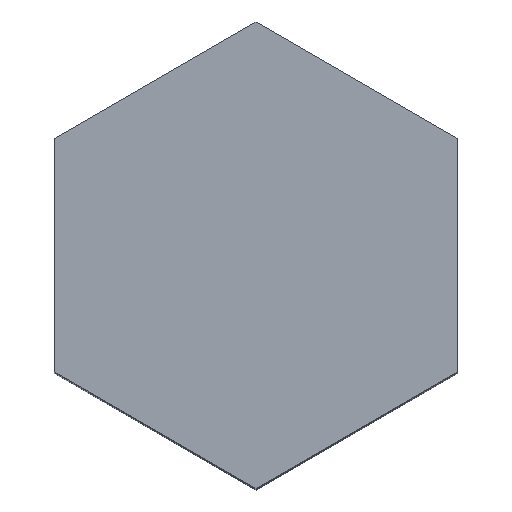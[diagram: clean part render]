
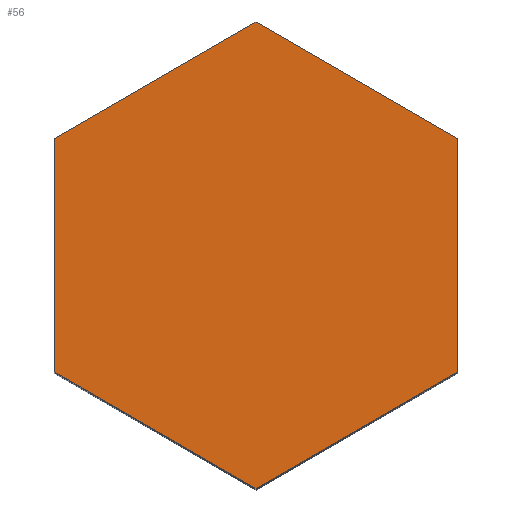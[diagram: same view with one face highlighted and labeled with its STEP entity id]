
A CAD part, top view. The second image highlights one B-rep face of the part: STEP entity #56.
In plain terms, the highlighted planar face has unit normal (0, 0, 1).
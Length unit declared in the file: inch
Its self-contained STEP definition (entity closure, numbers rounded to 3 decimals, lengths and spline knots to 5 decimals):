
#12 = EDGE_CURVE ( 'NONE', #300, #517, #631, .T. ) ;
#33 = DIRECTION ( 'NONE',  ( 1., 0., 0. ) ) ;
#36 = LINE ( 'NONE', #593, #545 ) ;
#37 = LINE ( 'NONE', #420, #147 ) ;
#56 = ADVANCED_FACE ( 'NONE', ( #490 ), #76, .T. ) ;
#74 = EDGE_CURVE ( 'NONE', #455, #322, #37, .T. ) ;
#76 = PLANE ( 'NONE',  #483 ) ;
#107 = EDGE_CURVE ( 'NONE', #510, #196, #383, .T. ) ;
#113 = VECTOR ( 'NONE', #372, 39.37008 ) ;
#128 = CARTESIAN_POINT ( 'NONE',  ( 0., -0.25259, 0.95 ) ) ;
#142 = CARTESIAN_POINT ( 'NONE',  ( 0.21875, 0.1263, 0.95 ) ) ;
#144 = DIRECTION ( 'NONE',  ( -0.866, -0.5, 0. ) ) ;
#147 = VECTOR ( 'NONE', #423, 39.37008 ) ;
#164 = VECTOR ( 'NONE', #424, 39.37008 ) ;
#168 = EDGE_CURVE ( 'NONE', #196, #455, #36, .T. ) ;
#196 = VERTEX_POINT ( 'NONE', #204 ) ;
#198 = VECTOR ( 'NONE', #352, 39.37008 ) ;
#200 = EDGE_CURVE ( 'NONE', #322, #300, #647, .T. ) ;
#204 = CARTESIAN_POINT ( 'NONE',  ( 0., 0.25259, 0.95 ) ) ;
#265 = DIRECTION ( 'NONE',  ( 0., 0., 1. ) ) ;
#276 = VECTOR ( 'NONE', #604, 39.37008 ) ;
#300 = VERTEX_POINT ( 'NONE', #518 ) ;
#322 = VERTEX_POINT ( 'NONE', #418 ) ;
#324 = CARTESIAN_POINT ( 'NONE',  ( -0.21875, 0.1263, 0.95 ) ) ;
#330 = CARTESIAN_POINT ( 'NONE',  ( 0.21875, -0.1263, 0.95 ) ) ;
#352 = DIRECTION ( 'NONE',  ( -0.866, 0.5, 0. ) ) ;
#367 = ORIENTED_EDGE ( 'NONE', *, *, #107, .T. ) ;
#372 = DIRECTION ( 'NONE',  ( 0.866, 0.5, 0. ) ) ;
#379 = LINE ( 'NONE', #330, #164 ) ;
#383 = LINE ( 'NONE', #493, #198 ) ;
#385 = CARTESIAN_POINT ( 'NONE',  ( 0.21875, -0.1263, 0.95 ) ) ;
#418 = CARTESIAN_POINT ( 'NONE',  ( -0.21875, -0.1263, 0.95 ) ) ;
#420 = CARTESIAN_POINT ( 'NONE',  ( -0.21875, 0.1263, 0.95 ) ) ;
#423 = DIRECTION ( 'NONE',  ( 0., -1., 0. ) ) ;
#424 = DIRECTION ( 'NONE',  ( 0., 1., 0. ) ) ;
#436 = EDGE_LOOP ( 'NONE', ( #367, #611, #472, #500, #459, #508 ) ) ;
#455 = VERTEX_POINT ( 'NONE', #324 ) ;
#456 = EDGE_CURVE ( 'NONE', #517, #510, #379, .T. ) ;
#459 = ORIENTED_EDGE ( 'NONE', *, *, #12, .T. ) ;
#472 = ORIENTED_EDGE ( 'NONE', *, *, #74, .T. ) ;
#481 = CARTESIAN_POINT ( 'NONE',  ( 0., 0., 0.95 ) ) ;
#483 = AXIS2_PLACEMENT_3D ( 'NONE', #481, #265, #33 ) ;
#490 = FACE_OUTER_BOUND ( 'NONE', #436, .T. ) ;
#493 = CARTESIAN_POINT ( 'NONE',  ( 0.21875, 0.1263, 0.95 ) ) ;
#500 = ORIENTED_EDGE ( 'NONE', *, *, #200, .T. ) ;
#508 = ORIENTED_EDGE ( 'NONE', *, *, #456, .T. ) ;
#510 = VERTEX_POINT ( 'NONE', #142 ) ;
#517 = VERTEX_POINT ( 'NONE', #385 ) ;
#518 = CARTESIAN_POINT ( 'NONE',  ( 0., -0.25259, 0.95 ) ) ;
#545 = VECTOR ( 'NONE', #144, 39.37008 ) ;
#593 = CARTESIAN_POINT ( 'NONE',  ( 0., 0.25259, 0.95 ) ) ;
#604 = DIRECTION ( 'NONE',  ( 0.866, -0.5, 0. ) ) ;
#611 = ORIENTED_EDGE ( 'NONE', *, *, #168, .T. ) ;
#631 = LINE ( 'NONE', #128, #113 ) ;
#636 = CARTESIAN_POINT ( 'NONE',  ( -0.21875, -0.1263, 0.95 ) ) ;
#647 = LINE ( 'NONE', #636, #276 ) ;
